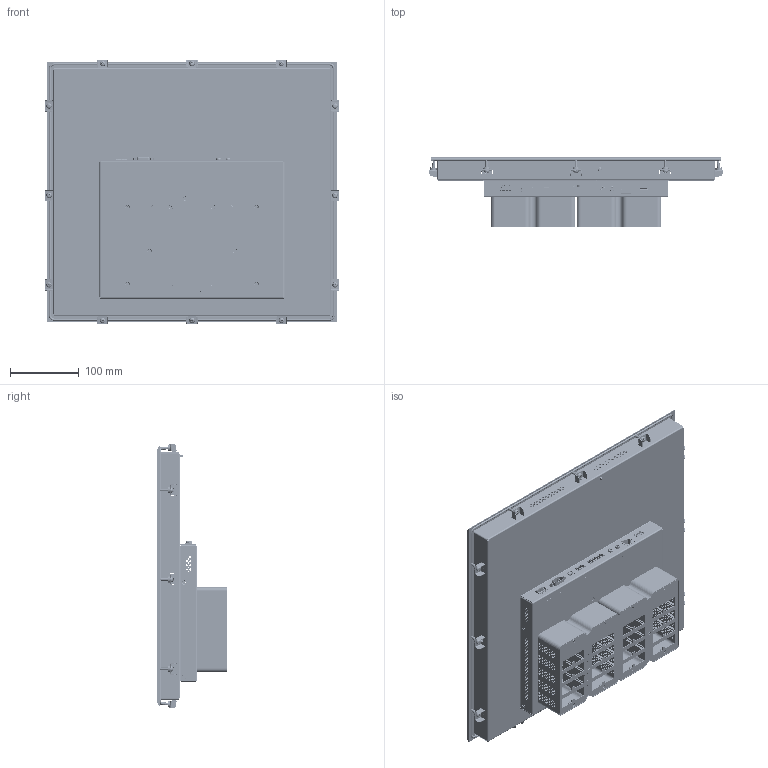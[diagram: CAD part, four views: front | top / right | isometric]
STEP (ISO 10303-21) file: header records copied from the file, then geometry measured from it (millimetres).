
FILE_DESCRIPTION (( 'STEP AP214' ), '1' );
FILE_NAME ('ﾏﾋﾊ19-02 ﾌ瑕褪.STEP', '2025-05-24T22:26:02', ( '' ), ( '' ), 'SwSTEP 2.0', 'SolidWorks 2021', '' );
FILE_SCHEMA (( 'AUTOMOTIVE_DESIGN' ));
Length unit declared in the file: millimetre
Products named in the file (1): ﾏﾋﾊ19-02 ﾌ瑕褪
Bounding box: 426.95 x 102.3 x 384.75 mm (x, y, z)
Surface area: 843694.3 mm2 (no closed solid volume)
Topology: 0 solids, 254 shells, 3494 faces, 19235 edges, 15749 vertices
Faces by surface type: cylinder 1926, plane 1376, cone 94, bspline 49, torus 49
Entity records: 240926 total; most frequent: CARTESIAN_POINT 55929, DIRECTION 28846, ORIENTED_EDGE 26505, EDGE_CURVE 19233, VERTEX_POINT 15749, LINE 9816, VECTOR 9816, AXIS2_PLACEMENT_3D 9515
